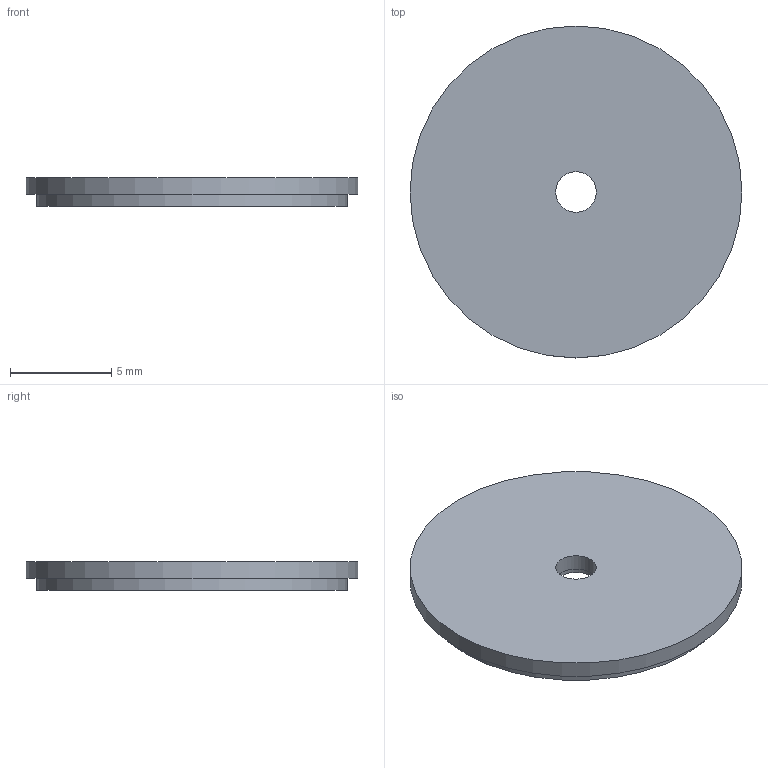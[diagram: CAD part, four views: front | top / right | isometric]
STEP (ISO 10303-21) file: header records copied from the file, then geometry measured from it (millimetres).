
FILE_DESCRIPTION(('Open CASCADE Model'),'2;1');
FILE_NAME('Open CASCADE Shape Model','2026-10-24T17:46:06',('Author'),( 'Open CASCADE'),'Open CASCADE STEP processor 8.0','Open CASCADE 8.0' ,'Unknown');
FILE_SCHEMA(('AUTOMOTIVE_DESIGN { 1 0 10303 214 1 1 1 1 }'));
Length unit declared in the file: millimetre
Products named in the file (1): Open CASCADE STEP translator 8.0 3
Bounding box: 16.4 x 16.4 x 1.4 mm (x, y, z)
Volume: 183.1 mm3; surface area: 523.6 mm2
Topology: 1 solids, 1 shells, 15 faces, 23 edges, 15 vertices
Faces by surface type: cylinder 8, plane 7
Full cylindrical faces by diameter (mm): 2 x2, 2.6 x1, 2.8 x1, 6.4 x1, 14 x1, 15.36 x1, 16.4 x1
Entity records: 656 total; most frequent: DIRECTION 115, CARTESIAN_POINT 101, ORIENTED_EDGE 46, PCURVE 46, DEFINITIONAL_REPRESENTATION 46, LINE 39, VECTOR 39, AXIS2_PLACEMENT_3D 31
